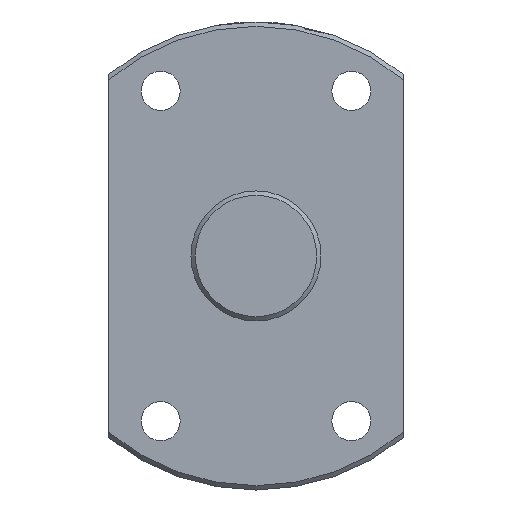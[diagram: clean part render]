
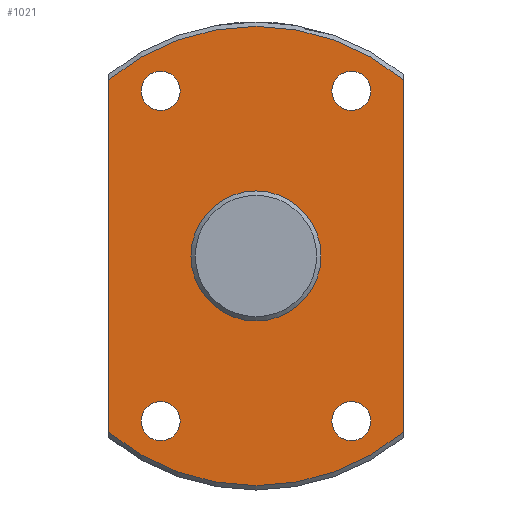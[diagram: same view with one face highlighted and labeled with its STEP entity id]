
A CAD part, left-side view. The second image highlights one B-rep face of the part: STEP entity #1021.
In plain terms, the highlighted planar face has unit normal (-1, 0, 0).
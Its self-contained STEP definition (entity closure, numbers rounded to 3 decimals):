
#315=CARTESIAN_POINT('',(265.335,-17.,20.329));
#316=VERTEX_POINT('',#315);
#341=CARTESIAN_POINT('',(265.335,17.,20.329));
#342=VERTEX_POINT('',#341);
#356=CARTESIAN_POINT('',(265.335,0.0,0.0));
#357=DIRECTION('',(1.0,0.0,0.0));
#358=DIRECTION('',(0.0,1.0,0.0));
#359=AXIS2_PLACEMENT_3D('',#356,#357,#358);
#360=CIRCLE('',#359,26.5);
#361=EDGE_CURVE('',#342,#316,#360,.T.);
#484=CARTESIAN_POINT('',(265.335,-17.,-20.329));
#485=VERTEX_POINT('',#484);
#486=CARTESIAN_POINT('',(265.335,-17.,20.329));
#487=DIRECTION('',(0.0,0.0,-1.0));
#488=VECTOR('',#487,40.657);
#489=LINE('',#486,#488);
#490=EDGE_CURVE('',#316,#485,#489,.T.);
#566=CARTESIAN_POINT('',(265.335,17.,-20.329));
#567=VERTEX_POINT('',#566);
#591=CARTESIAN_POINT('',(265.335,0.0,0.0));
#592=DIRECTION('',(1.0,0.0,0.0));
#593=DIRECTION('',(0.0,1.0,0.0));
#594=AXIS2_PLACEMENT_3D('',#591,#592,#593);
#595=CIRCLE('',#594,26.5);
#596=EDGE_CURVE('',#485,#567,#595,.T.);
#677=CARTESIAN_POINT('',(265.335,17.,-20.329));
#678=DIRECTION('',(0.0,0.0,1.0));
#679=VECTOR('',#678,40.657);
#680=LINE('',#677,#679);
#681=EDGE_CURVE('',#567,#342,#680,.T.);
#903=CARTESIAN_POINT('',(265.335,7.5,0.));
#904=VERTEX_POINT('',#903);
#905=CARTESIAN_POINT('',(265.335,0.0,0.0));
#906=DIRECTION('',(1.0,0.0,0.0));
#907=DIRECTION('',(0.0,-1.0,0.0));
#908=AXIS2_PLACEMENT_3D('',#905,#906,#907);
#909=CIRCLE('',#908,7.5);
#910=EDGE_CURVE('',#904,#904,#909,.T.);
#923=CARTESIAN_POINT('',(265.335,13.25,-19.053));
#924=VERTEX_POINT('',#923);
#925=CARTESIAN_POINT('',(265.335,11.,-19.053));
#926=DIRECTION('',(1.0,0.0,0.0));
#927=DIRECTION('',(0.0,1.0,0.0));
#928=AXIS2_PLACEMENT_3D('',#925,#926,#927);
#929=CIRCLE('',#928,2.25);
#930=EDGE_CURVE('',#924,#924,#929,.T.);
#943=CARTESIAN_POINT('',(265.335,-8.75,19.053));
#944=VERTEX_POINT('',#943);
#945=CARTESIAN_POINT('',(265.335,-11.,19.053));
#946=DIRECTION('',(1.0,0.0,0.0));
#947=DIRECTION('',(0.0,1.0,0.0));
#948=AXIS2_PLACEMENT_3D('',#945,#946,#947);
#949=CIRCLE('',#948,2.25);
#950=EDGE_CURVE('',#944,#944,#949,.T.);
#963=CARTESIAN_POINT('',(265.335,13.25,19.053));
#964=VERTEX_POINT('',#963);
#965=CARTESIAN_POINT('',(265.335,11.,19.053));
#966=DIRECTION('',(1.0,0.0,0.0));
#967=DIRECTION('',(0.0,1.0,0.0));
#968=AXIS2_PLACEMENT_3D('',#965,#966,#967);
#969=CIRCLE('',#968,2.25);
#970=EDGE_CURVE('',#964,#964,#969,.T.);
#983=CARTESIAN_POINT('',(265.335,-8.75,-19.053));
#984=VERTEX_POINT('',#983);
#985=CARTESIAN_POINT('',(265.335,-11.,-19.053));
#986=DIRECTION('',(1.0,0.0,0.0));
#987=DIRECTION('',(0.0,1.0,0.0));
#988=AXIS2_PLACEMENT_3D('',#985,#986,#987);
#989=CIRCLE('',#988,2.25);
#990=EDGE_CURVE('',#984,#984,#989,.T.);
#995=CARTESIAN_POINT('',(265.335,0.0,0.0));
#996=DIRECTION('',(-1.0,0.0,0.0));
#997=DIRECTION('',(0.0,0.0,1.0));
#998=AXIS2_PLACEMENT_3D('',#995,#996,#997);
#999=PLANE('',#998);
#1000=ORIENTED_EDGE('',*,*,#361,.F.);
#1001=ORIENTED_EDGE('',*,*,#681,.F.);
#1002=ORIENTED_EDGE('',*,*,#596,.F.);
#1003=ORIENTED_EDGE('',*,*,#490,.F.);
#1004=EDGE_LOOP('',(#1000,#1001,#1002,#1003));
#1005=FACE_OUTER_BOUND('',#1004,.T.);
#1006=ORIENTED_EDGE('',*,*,#910,.T.);
#1007=EDGE_LOOP('',(#1006));
#1008=FACE_BOUND('',#1007,.T.);
#1009=ORIENTED_EDGE('',*,*,#930,.T.);
#1010=EDGE_LOOP('',(#1009));
#1011=FACE_BOUND('',#1010,.T.);
#1012=ORIENTED_EDGE('',*,*,#950,.T.);
#1013=EDGE_LOOP('',(#1012));
#1014=FACE_BOUND('',#1013,.T.);
#1015=ORIENTED_EDGE('',*,*,#970,.T.);
#1016=EDGE_LOOP('',(#1015));
#1017=FACE_BOUND('',#1016,.T.);
#1018=ORIENTED_EDGE('',*,*,#990,.T.);
#1019=EDGE_LOOP('',(#1018));
#1020=FACE_BOUND('',#1019,.T.);
#1021=ADVANCED_FACE('',(#1005,#1008,#1011,#1014,#1017,#1020),#999,.T.);
